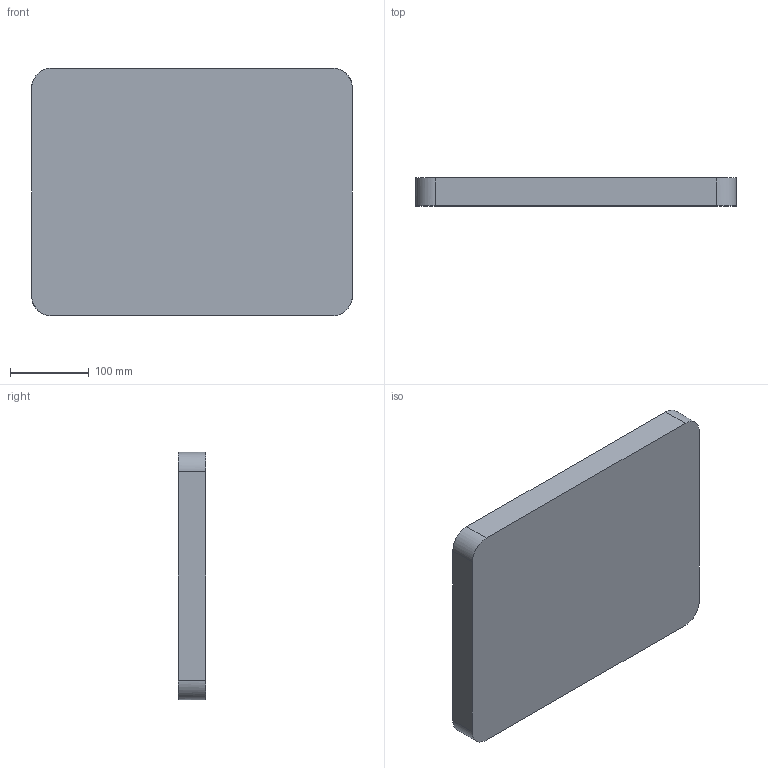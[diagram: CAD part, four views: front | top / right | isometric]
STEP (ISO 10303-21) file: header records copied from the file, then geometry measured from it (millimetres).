
FILE_DESCRIPTION (( 'STEP AP214' ), '1' );
FILE_NAME ('1090-CASE-BOT.STEP', '2008-05-14T19:14:40', ( ' ' ), ( ' ' ), 'SwSTEP 2.0', 'SolidWorks 2007', '' );
FILE_SCHEMA (( 'AUTOMOTIVE_DESIGN' ));
Length unit declared in the file: inch
Products named in the file (1): 1090-CASE-BOT
Bounding box: 406.09 x 35.18 x 313.38 mm (x, y, z)
Volume: 1651025.5 mm3; surface area: 336316 mm2
Topology: 1 solids, 1 shells, 287 faces, 690 edges, 394 vertices
Faces by surface type: bspline 135, cylinder 100, plane 43, torus 5, sphere 4
Entity records: 10818 total; most frequent: CARTESIAN_POINT 5383, ORIENTED_EDGE 1344, DIRECTION 918, EDGE_CURVE 672, VERTEX_POINT 394, AXIS2_PLACEMENT_3D 361, EDGE_LOOP 294, ADVANCED_FACE 287
